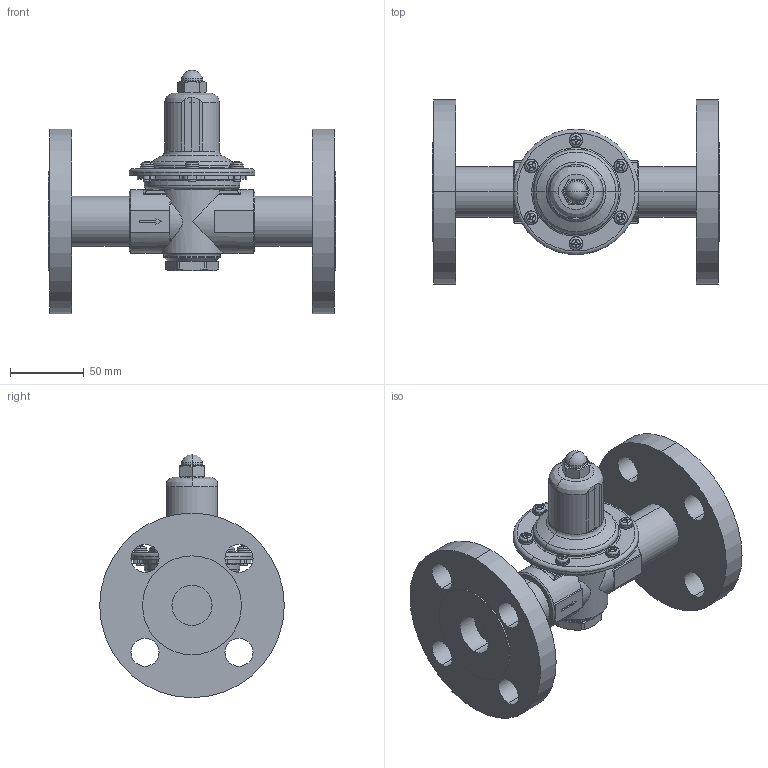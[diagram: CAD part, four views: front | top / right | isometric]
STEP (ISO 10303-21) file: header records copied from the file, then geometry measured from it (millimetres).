
FILE_DESCRIPTION( (''), '2;1');
FILE_NAME ('PC1276.1940.GD-43-20 (25A RF)_32655.stp','2026-01-15T14:41:41',(''),(''),'spGate 20.6.3 (****-****-****-****)','','');
FILE_SCHEMA (('AUTOMOTIVE_DESIGN'));
Length unit declared in the file: millimetre
Products named in the file (8): Assembly; ばねかばー; 袋ナット; 下部キャップ; なべこねじ(Ｍ5-10); スプリング座金; ダイヤフラム; GD-41 25A
Assembly tree (17 placements, depth 2):
  Assembly
    ばねかばー
    袋ナット
    下部キャップ
    なべこねじ(Ｍ5-10)  x6
    スプリング座金  x6
    ダイヤフラム
    GD-41 25A
Bounding box: 195 x 125 x 164.75 mm (x, y, z)
Volume: 593022.9 mm3; surface area: 140790.1 mm2
Topology: 17 solids, 17 shells, 637 faces, 1606 edges, 1025 vertices
Faces by surface type: plane 261, cylinder 240, bspline 120, sphere 16
Entity records: 26307 total; most frequent: CARTESIAN_POINT 5626, ORIENTED_EDGE 2404, DIRECTION 2208, COLOUR_RGB 1681, PRESENTATION_STYLE_ASSIGNMENT 1681, STYLED_ITEM 1681, EDGE_CURVE 1202, DRAUGHTING_PRE_DEFINED_CURVE_FONT 1202
